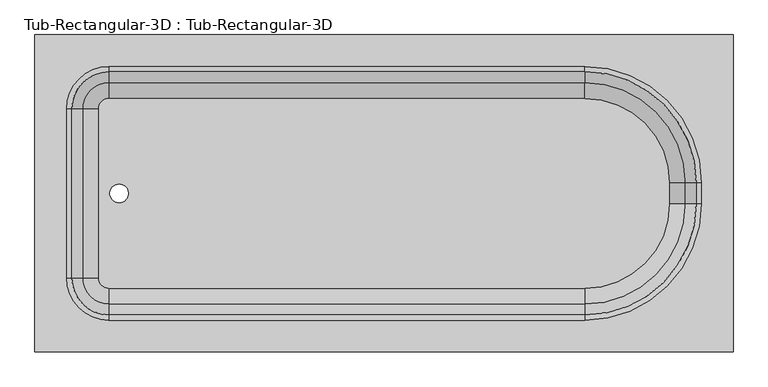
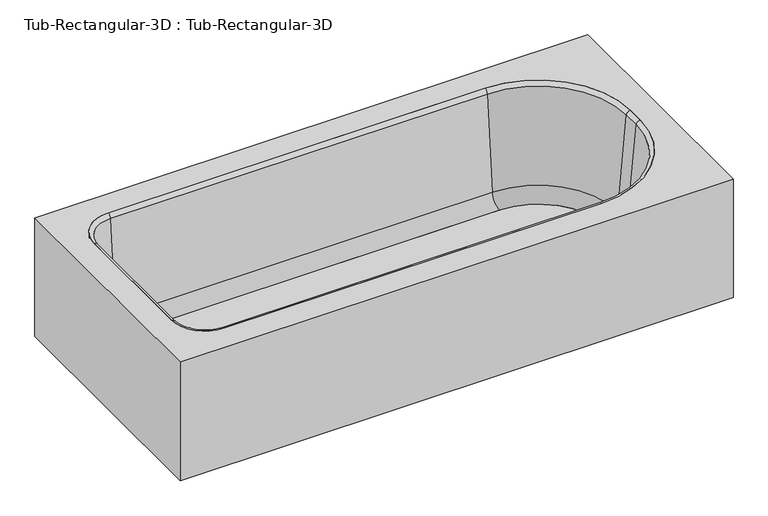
"""IFC4 building model written with IfcOpenShell, lengths in millimetres: flow terminal geometry, Tub-Rectangular-3D : Tub-Rectangular-3D."""

from ifc_helpers import new_model, si_unit, point, frame, frame_2d, origin, place, context, project, spatial, polyline, circle_curve, ellipse_curve, trimmed, segment, composite_curve, outline, extrude, source, transform, mapped, element, save
from ifc_brep_helpers import plane_surface, cylinder_surface, revolved_surface, advanced_brep


def tub_rectangular_3d_tub_rectangular_3d_4e1d8e59(model_context):
    return source(origin(), model_context, "Body", "SolidModel", [
        advanced_brep(
        [(565.7970313, 859.0, 381.0), (-1110.6029687, 859.0, 381.0), (-1110.6029687, 97.0, 381.0), (565.7970313, 97.0, 381.0), (-932.8029687, 782.8, 381.0), (210.1970313, 782.8, 381.0), (489.5970313, 503.4, 381.0), (489.5970313, 452.6, 381.0), (210.1970313, 173.2, 381.0), (-932.8029687, 173.2, 381.0), (-1034.4029687, 274.8, 381.0), (-1034.4029687, 681.2, 381.0), (546.7470313, 839.95, 361.95), (546.7470313, 116.05, 361.95), (-1091.5529687, 116.05, 361.95), (-1091.5529687, 839.95, 361.95), (-932.8029687, 782.8, 361.95), (-1034.4029687, 681.2, 361.95), (-1034.4029687, 274.8, 361.95), (-932.8029687, 173.2, 361.95), (210.1970313, 173.2, 361.95), (489.5970313, 452.6, 361.95), (489.5970313, 503.4, 361.95), (210.1970313, 782.8, 361.95), (565.7970313, 859.0, 0.0), (-1110.6029687, 859.0, 0.0), (-1110.6029687, 97.0, 0.0), (565.7970313, 97.0, 0.0), (546.7470313, 839.95, 0.0), (-1091.5529687, 839.95, 0.0), (-1091.5529687, 116.05, 0.0), (546.7470313, 116.05, 0.0)],
        [
            (0, 1),
            (1, 2),
            (2, 3),
            (3, 0),
            (4, 5),
            (5, 6, circle_curve(frame((210.1970313, 503.4, 381.0), z_axis=(0.0, 0.0, -1.0), x_axis=(0.0, 1.0, 0.0)), 279.4)),
            (6, 7),
            (7, 8, circle_curve(frame((210.1970313, 452.6, 381.0), z_axis=(0.0, 0.0, -1.0), x_axis=(0.0, 1.0, 0.0)), 279.4)),
            (8, 9),
            (9, 10, circle_curve(frame((-932.8029687, 274.8, 381.0), z_axis=(0.0, 0.0, -1.0), x_axis=(0.0, 1.0, 0.0)), 101.6)),
            (10, 11),
            (11, 4, circle_curve(frame((-932.8029687, 681.2, 381.0), z_axis=(0.0, 0.0, -1.0), x_axis=(0.0, 1.0, 0.0)), 101.6)),
            (12, 13),
            (13, 14),
            (14, 15),
            (15, 12),
            (16, 17, circle_curve(frame((-932.8029687, 681.2, 361.95), z_axis=(0.0, 0.0, 1.0), x_axis=(0.0, 1.0, 0.0)), 101.6)),
            (17, 18),
            (18, 19, circle_curve(frame((-932.8029687, 274.8, 361.95), z_axis=(0.0, 0.0, 1.0), x_axis=(0.0, 1.0, 0.0)), 101.6)),
            (19, 20),
            (20, 21, circle_curve(frame((210.1970313, 452.6, 361.95), z_axis=(0.0, 0.0, 1.0), x_axis=(0.0, 1.0, 0.0)), 279.4)),
            (21, 22),
            (22, 23, circle_curve(frame((210.1970313, 503.4, 361.95), z_axis=(0.0, 0.0, 1.0), x_axis=(0.0, 1.0, 0.0)), 279.4)),
            (23, 16),
            (0, 24),
            (24, 25),
            (25, 1),
            (25, 26),
            (26, 2),
            (26, 27),
            (27, 3),
            (27, 24),
            (4, 16),
            (23, 5),
            (22, 6),
            (21, 7),
            (20, 8),
            (19, 9),
            (18, 10),
            (17, 11),
            (28, 29),
            (29, 30),
            (30, 31),
            (31, 28),
            (31, 13),
            (12, 28),
            (30, 14),
            (29, 15),
        ],
        [
            plane_surface(frame((-1110.6029687, 859.0, 381.0), z_axis=(0.0, 0.0, 1.0), x_axis=(-1.0, 0.0, 0.0))),
            plane_surface(frame((-1110.6029687, 859.0, 361.95), z_axis=(0.0, 0.0, -1.0), x_axis=(1.0, 0.0, 0.0))),
            plane_surface(frame((565.7970313, 859.0, 381.0), z_axis=(0.0, 1.0, 0.0), x_axis=(0.0, 0.0, -1.0))),
            plane_surface(frame((-1110.6029687, 859.0, 381.0), z_axis=(-1.0, 0.0, 0.0), x_axis=(0.0, 0.0, -1.0))),
            plane_surface(frame((-1110.6029687, 97.0, 381.0), z_axis=(0.0, -1.0, 0.0), x_axis=(0.0, 0.0, -1.0))),
            plane_surface(frame((565.7970313, 97.0, 381.0), z_axis=(1.0, 0.0, 0.0), x_axis=(0.0, 0.0, -1.0))),
            plane_surface(frame((-932.8029687, 782.8, 381.0), z_axis=(0.0, -1.0, 0.0), x_axis=(0.0, 0.0, -1.0))),
            revolved_surface(polyline([(210.1970313, 782.8, 361.95), (210.1970313, 782.8, 381.0)]), (210.1970313, 503.4, 381.0), (0.0, 0.0, -1.0)),
            plane_surface(frame((489.5970313, 503.4, 381.0), z_axis=(-1.0, 0.0, 0.0), x_axis=(0.0, 0.0, -1.0))),
            revolved_surface(polyline([(210.1970313, 732.0, 361.95), (210.1970313, 732.0, 381.0)]), (210.1970313, 452.6, 381.0), (0.0, 0.0, -1.0)),
            plane_surface(frame((210.1970313, 173.2, 381.0), z_axis=(0.0, 1.0, 0.0), x_axis=(0.0, 0.0, -1.0))),
            revolved_surface(polyline([(-932.8029687, 376.4, 361.95), (-932.8029687, 376.4, 381.0)]), (-932.8029687, 274.8, 381.0), (0.0, 0.0, -1.0)),
            plane_surface(frame((-1034.4029687, 274.8, 381.0), z_axis=(1.0, 0.0, 0.0), x_axis=(0.0, 0.0, -1.0))),
            revolved_surface(polyline([(-932.8029687, 782.8000000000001, 361.95), (-932.8029687, 782.8000000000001, 381.0)]), (-932.8029687, 681.2, 381.0), (0.0, 0.0, -1.0)),
            plane_surface(frame((-1110.6029687, 859.0, 0.0), z_axis=(0.0, 0.0, -1.0), x_axis=(1.0, 0.0, 0.0))),
            plane_surface(frame((546.7470313, 839.95, 361.95), z_axis=(-1.0, 0.0, 0.0), x_axis=(0.0, 0.0, -1.0))),
            plane_surface(frame((546.7470313, 116.05, 361.95), z_axis=(0.0, 1.0, 0.0), x_axis=(0.0, 0.0, -1.0))),
            plane_surface(frame((-1091.5529687, 116.05, 361.95), z_axis=(1.0, 0.0, 0.0), x_axis=(0.0, 0.0, -1.0))),
            plane_surface(frame((-1091.5529687, 839.95, 361.95), z_axis=(0.0, -1.0, 0.0), x_axis=(0.0, 0.0, -1.0))),
        ],
        [
            (0, [[1, 2, 3, 4], [5, 6, 7, 8, 9, 10, 11, 12]]),
            (1, [[13, 14, 15, 16], [17, 18, 19, 20, 21, 22, 23, 24]]),
            (2, [[-1, 25, 26, 27]]),
            (3, [[-2, -27, 28, 29]]),
            (4, [[-3, -29, 30, 31]]),
            (5, [[-25, -4, -31, 32]]),
            (6, [[-5, 33, -24, 34]]),
            (7, [[-6, -34, -23, 35]]),
            (8, [[-7, -35, -22, 36]]),
            (9, [[-8, -36, -21, 37]]),
            (10, [[-9, -37, -20, 38]]),
            (11, [[-10, -38, -19, 39]]),
            (12, [[-11, -39, -18, 40]]),
            (13, [[-12, -40, -17, -33]]),
            (14, [[-32, -30, -28, -26], [41, 42, 43, 44]]),
            (15, [[-44, 45, -13, 46]]),
            (16, [[-43, 47, -14, -45]]),
            (17, [[-42, 48, -15, -47]]),
            (18, [[-41, -46, -16, -48]]),
        ],
    ),
        extrude(outline(composite_curve([segment(trimmed(circle_curve(frame_2d((210.1970313, 503.4)), 202.7964741), [point((210.1970313, 706.1964741))], [point((412.9935054, 503.4))], False, "CARTESIAN"), True, "CONTINUOUS"), segment(polyline([(412.9935054, 503.4), (412.9935054, 452.6)]), True, "CONTINUOUS"), segment(trimmed(circle_curve(frame_2d((210.1970313, 452.6)), 202.7964741), [point((412.9935054, 452.6))], [point((210.1970313, 249.8035259))], False, "CARTESIAN"), True, "CONTINUOUS"), segment(polyline([(210.1970313, 249.8035259), (-932.8029687, 249.8035259)]), True, "CONTINUOUS"), segment(trimmed(circle_curve(frame_2d((-932.8029687, 274.8)), 24.9964741), [point((-932.8029687, 249.8035259))], [point((-957.7994428, 274.8))], False, "CARTESIAN"), True, "CONTINUOUS"), segment(polyline([(-957.7994428, 274.8), (-957.7994428, 681.2)]), True, "CONTINUOUS"), segment(trimmed(circle_curve(frame_2d((-932.8029687, 681.2)), 24.9964741), [point((-957.7994428, 681.2))], [point((-932.8029687, 706.1964741))], False, "CARTESIAN"), True, "CONTINUOUS"), segment(polyline([(-932.8029687, 706.1964741), (210.1970313, 706.1964741)]), True, "CONTINUOUS")], self_intersect=False), holes=[composite_curve([segment(trimmed(circle_curve(frame_2d((-908.510206, 478.0)), 22.225), [point((-908.510206, 500.225))], [point((-908.510206, 455.775))], True, "CARTESIAN"), True, "CONTINUOUS"), segment(trimmed(circle_curve(frame_2d((-908.510206, 478.0)), 22.225), [point((-908.510206, 455.775))], [point((-908.510206, 500.225))], True, "CARTESIAN"), True, "CONTINUOUS")], self_intersect=False)]), frame((0.0, 0.0, 16.863573), z_axis=(0.0, 0.0, 1.0), x_axis=(1.0, 0.0, 0.0)), (0.0, 0.0, 1.0), 19.05),
        advanced_brep(
        [(-995.7544608, 681.2, 70.6929392), (-932.8029687, 744.1514921, 70.6929392), (-932.8029687, 770.3220035, 369.8232535), (-1021.9249722, 681.2, 369.8232535), (-957.7994428, 681.2, 35.913573), (-932.8029687, 706.1964741, 35.913573), (-957.7994428, 681.2, 16.863573), (-932.8029687, 706.1964741, 16.863573), (-1034.4029687, 681.2, 16.863573), (-932.8029687, 782.8, 16.863573), (-1034.4029687, 681.2, 381.0), (-932.8029687, 782.8, 381.0), (-1021.9249722, 274.8, 369.8232535), (-995.7544608, 274.8, 70.6929392), (-957.7994428, 274.8, 35.913573), (-957.7994428, 274.8, 16.863573), (-1034.4029687, 274.8, 16.863573), (-1034.4029687, 274.8, 381.0), (-932.8029687, 211.8485079, 70.6929392), (-932.8029687, 185.6779965, 369.8232535), (-932.8029687, 249.8035259, 35.913573), (-932.8029687, 249.8035259, 16.863573), (-932.8029687, 173.2, 16.863573), (-932.8029687, 173.2, 381.0), (210.1970313, 185.6779965, 369.8232535), (210.1970313, 211.8485079, 70.6929392), (210.1970313, 249.8035259, 35.913573), (210.1970313, 249.8035259, 16.863573), (210.1970313, 173.2, 16.863573), (210.1970313, 173.2, 381.0), (450.9485234, 452.6, 70.6929392), (477.1190348, 452.6, 369.8232535), (412.9935054, 452.6, 35.913573), (412.9935054, 452.6, 16.863573), (489.5970313, 452.6, 16.863573), (489.5970313, 452.6, 381.0), (477.1190348, 503.4, 369.8232535), (450.9485234, 503.4, 70.6929392), (412.9935054, 503.4, 35.913573), (412.9935054, 503.4, 16.863573), (489.5970313, 503.4, 16.863573), (489.5970313, 503.4, 381.0), (210.1970313, 744.1514921, 70.6929392), (210.1970313, 770.3220035, 369.8232535), (210.1970313, 706.1964741, 35.913573), (210.1970313, 706.1964741, 16.863573), (210.1970313, 782.8, 16.863573), (210.1970313, 782.8, 381.0)],
        [
            (0, 1, circle_curve(frame((-932.8029687, 681.2, 70.6929392), z_axis=(0.0, 0.0, -1.0), x_axis=(0.0, 1.0, 0.0)), 62.9514921)),
            (1, 2),
            (2, 3, circle_curve(frame((-932.8029687, 681.2, 369.8232535), z_axis=(0.0, 0.0, 1.0), x_axis=(0.0, 1.0, 0.0)), 89.1220035)),
            (3, 0),
            (4, 5, circle_curve(frame((-932.8029687, 681.2, 35.913573), z_axis=(0.0, 0.0, -1.0), x_axis=(0.0, 1.0, 0.0)), 24.9964741)),
            (5, 1, circle_curve(frame((-932.8029687, 706.1964741, 74.013573), z_axis=(1.0, 0.0, 0.0), x_axis=(0.0, -1.0, 0.0)), 38.1)),
            (0, 4, circle_curve(frame((-957.7994428, 681.2, 74.013573), z_axis=(0.0, -1.0, 0.0), x_axis=(1.0, 0.0, 0.0)), 38.1)),
            (6, 7, circle_curve(frame((-932.8029687, 681.2, 16.863573), z_axis=(0.0, 0.0, -1.0), x_axis=(0.0, 1.0, 0.0)), 24.9964741)),
            (7, 5),
            (4, 6),
            (8, 9, circle_curve(frame((-932.8029687, 681.2, 16.863573), z_axis=(0.0, 0.0, -1.0), x_axis=(0.0, 1.0, 0.0)), 101.6)),
            (9, 7),
            (6, 8),
            (10, 11, circle_curve(frame((-932.8029687, 681.2, 381.0), z_axis=(0.0, 0.0, -1.0), x_axis=(0.0, 1.0, 0.0)), 101.6)),
            (11, 9),
            (8, 10),
            (2, 11, circle_curve(frame((-932.8029687, 782.8, 368.4462547), z_axis=(-1.0, 0.0, 0.0), x_axis=(0.0, -1.0, 0.0)), 12.5537453)),
            (10, 3, circle_curve(frame((-1034.4029687, 681.2, 368.4462547), z_axis=(0.0, 1.0, 0.0), x_axis=(1.0, 0.0, 0.0)), 12.5537453)),
            (3, 12),
            (12, 13),
            (13, 0),
            (13, 14, circle_curve(frame((-957.7994428, 274.8, 74.013573), z_axis=(0.0, -1.0, 0.0), x_axis=(1.0, 0.0, 0.0)), 38.1)),
            (14, 4),
            (14, 15),
            (15, 6),
            (15, 16),
            (16, 8),
            (16, 17),
            (17, 10),
            (17, 12, circle_curve(frame((-1034.4029687, 274.8, 368.4462547), z_axis=(0.0, 1.0, 0.0), x_axis=(1.0, 0.0, 0.0)), 12.5537453)),
            (18, 13, circle_curve(frame((-932.8029687, 274.8, 70.6929392), z_axis=(0.0, 0.0, -1.0), x_axis=(-1.0, 0.0, 0.0)), 62.9514921)),
            (12, 19, circle_curve(frame((-932.8029687, 274.8, 369.8232535), z_axis=(0.0, 0.0, 1.0), x_axis=(-1.0, 0.0, 0.0)), 89.1220035)),
            (19, 18),
            (20, 14, circle_curve(frame((-932.8029687, 274.8, 35.913573), z_axis=(0.0, 0.0, -1.0), x_axis=(-1.0, 0.0, 0.0)), 24.9964741)),
            (18, 20, circle_curve(frame((-932.8029687, 249.8035259, 74.013573), z_axis=(1.0, 0.0, 0.0), x_axis=(0.0, 1.0, 0.0)), 38.1)),
            (21, 15, circle_curve(frame((-932.8029687, 274.8, 16.863573), z_axis=(0.0, 0.0, -1.0), x_axis=(-1.0, 0.0, 0.0)), 24.9964741)),
            (20, 21),
            (22, 16, circle_curve(frame((-932.8029687, 274.8, 16.863573), z_axis=(0.0, 0.0, -1.0), x_axis=(-1.0, 0.0, 0.0)), 101.6)),
            (21, 22),
            (23, 17, circle_curve(frame((-932.8029687, 274.8, 381.0), z_axis=(0.0, 0.0, -1.0), x_axis=(-1.0, 0.0, 0.0)), 101.6)),
            (22, 23),
            (23, 19, circle_curve(frame((-932.8029687, 173.2, 368.4462547), z_axis=(-1.0, 0.0, 0.0), x_axis=(0.0, 1.0, 0.0)), 12.5537453)),
            (19, 24),
            (24, 25),
            (25, 18),
            (25, 26, circle_curve(frame((210.1970313, 249.8035259, 74.013573), z_axis=(1.0, 0.0, 0.0), x_axis=(0.0, 1.0, 0.0)), 38.1)),
            (26, 20),
            (26, 27),
            (27, 21),
            (27, 28),
            (28, 22),
            (28, 29),
            (29, 23),
            (29, 24, circle_curve(frame((210.1970313, 173.2, 368.4462547), z_axis=(-1.0, 0.0, 0.0), x_axis=(0.0, 1.0, 0.0)), 12.5537453)),
            (30, 25, circle_curve(frame((210.1970313, 452.6, 70.6929392), z_axis=(0.0, 0.0, -1.0), x_axis=(0.0, -1.0, 0.0)), 240.7514921)),
            (24, 31, circle_curve(frame((210.1970313, 452.6, 369.8232535), z_axis=(0.0, 0.0, 1.0), x_axis=(0.0, -1.0, 0.0)), 266.9220035)),
            (31, 30),
            (32, 26, circle_curve(frame((210.1970313, 452.6, 35.913573), z_axis=(0.0, 0.0, -1.0), x_axis=(0.0, -1.0, 0.0)), 202.7964741)),
            (30, 32, circle_curve(frame((412.9935054, 452.6, 74.013573), z_axis=(0.0, 1.0, 0.0), x_axis=(-1.0, 0.0, 0.0)), 38.1)),
            (33, 27, circle_curve(frame((210.1970313, 452.6, 16.863573), z_axis=(0.0, 0.0, -1.0), x_axis=(0.0, -1.0, 0.0)), 202.7964741)),
            (32, 33),
            (34, 28, circle_curve(frame((210.1970313, 452.6, 16.863573), z_axis=(0.0, 0.0, -1.0), x_axis=(0.0, -1.0, 0.0)), 279.4)),
            (33, 34),
            (35, 29, circle_curve(frame((210.1970313, 452.6, 381.0), z_axis=(0.0, 0.0, -1.0), x_axis=(0.0, -1.0, 0.0)), 279.4)),
            (34, 35),
            (35, 31, circle_curve(frame((489.5970313, 452.6, 368.4462547), z_axis=(0.0, -1.0, 0.0), x_axis=(-1.0, 0.0, 0.0)), 12.5537453)),
            (31, 36),
            (36, 37),
            (37, 30),
            (37, 38, circle_curve(frame((412.9935054, 503.4, 74.013573), z_axis=(0.0, 1.0, 0.0), x_axis=(-1.0, 0.0, 0.0)), 38.1)),
            (38, 32),
            (38, 39),
            (39, 33),
            (39, 40),
            (40, 34),
            (40, 41),
            (41, 35),
            (41, 36, circle_curve(frame((489.5970313, 503.4, 368.4462547), z_axis=(0.0, -1.0, 0.0), x_axis=(-1.0, 0.0, 0.0)), 12.5537453)),
            (42, 37, circle_curve(frame((210.1970313, 503.4, 70.6929392), z_axis=(0.0, 0.0, -1.0), x_axis=(1.0, 0.0, 0.0)), 240.7514921)),
            (36, 43, circle_curve(frame((210.1970313, 503.4, 369.8232535), z_axis=(0.0, 0.0, 1.0), x_axis=(1.0, 0.0, 0.0)), 266.9220035)),
            (43, 42),
            (44, 38, circle_curve(frame((210.1970313, 503.4, 35.913573), z_axis=(0.0, 0.0, -1.0), x_axis=(1.0, 0.0, 0.0)), 202.7964741)),
            (42, 44, circle_curve(frame((210.1970313, 706.1964741, 74.013573), z_axis=(-1.0, 0.0, 0.0), x_axis=(0.0, -1.0, 0.0)), 38.1)),
            (45, 39, circle_curve(frame((210.1970313, 503.4, 16.863573), z_axis=(0.0, 0.0, -1.0), x_axis=(1.0, 0.0, 0.0)), 202.7964741)),
            (44, 45),
            (46, 40, circle_curve(frame((210.1970313, 503.4, 16.863573), z_axis=(0.0, 0.0, -1.0), x_axis=(1.0, 0.0, 0.0)), 279.4)),
            (45, 46),
            (47, 41, circle_curve(frame((210.1970313, 503.4, 381.0), z_axis=(0.0, 0.0, -1.0), x_axis=(1.0, 0.0, 0.0)), 279.4)),
            (46, 47),
            (47, 43, circle_curve(frame((210.1970313, 782.8, 368.4462547), z_axis=(1.0, 0.0, 0.0), x_axis=(0.0, -1.0, 0.0)), 12.5537453)),
            (43, 2),
            (1, 42),
            (5, 44),
            (7, 45),
            (9, 46),
            (11, 47),
        ],
        [
            revolved_surface(polyline([(-932.8029687, 770.3220035, 369.8232535), (-932.8029687, 744.1514921, 70.6929392)]), (-932.8029687, 681.2, 381.0), (0.0, 0.0, 1.0)),
            revolved_surface(trimmed(ellipse_curve(frame((-932.8029687, 706.1964741, 74.013573), z_axis=(-1.0, 0.0, 0.0), x_axis=(0.0, -1.0, 0.0)), 38.1, 38.1), [point((-932.8029687, 744.1514921, 70.6929392))], [point((-932.8029687, 706.1964741, 35.913573))], True, "CARTESIAN"), (-932.8029687, 681.2, 381.0), (0.0, 0.0, 1.0)),
            revolved_surface(polyline([(-932.8029687, 706.1964741, 35.913572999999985), (-932.8029687, 706.1964741, 16.863572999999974)]), (-932.8029687, 681.2, 381.0), (0.0, 0.0, 1.0)),
            plane_surface(frame((-932.8029687, 681.2, 16.863573), z_axis=(0.0, 0.0, -1.0), x_axis=(0.0, 1.0, 0.0))),
            cylinder_surface(frame((-932.8029687, 681.2, 381.0), z_axis=(0.0, 0.0, 1.0), x_axis=(0.0, 1.0, 0.0)), 101.6),
            revolved_surface(trimmed(ellipse_curve(frame((-932.8029687, 782.8, 368.4462547), z_axis=(1.0, 0.0, 0.0), x_axis=(0.0, -1.0, 0.0)), 12.5537453, 12.5537453), [point((-932.8029687, 782.8, 381.0))], [point((-932.8029687, 770.3220035, 369.8232535))], True, "CARTESIAN"), (-932.8029687, 681.2, 381.0), (0.0, 0.0, 1.0)),
            plane_surface(frame((-1021.9249722, 681.2, 369.8232535), z_axis=(0.9961946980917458, 0.0, 0.08715574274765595), x_axis=(0.0, -1.0, 0.0))),
            revolved_surface(polyline([(-919.6994427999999, 274.8, 74.013573), (-919.6994427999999, 681.2, 74.013573)]), (-957.7994428, 681.2, 74.013573), (0.0, -1.0, 0.0)),
            plane_surface(frame((-957.7994428, 681.2, 35.913573), z_axis=(1.0, 0.0, 0.0), x_axis=(0.0, -1.0, 0.0))),
            plane_surface(frame((-957.7994428, 681.2, 16.863573), z_axis=(0.0, 0.0, -1.0), x_axis=(0.0, -1.0, 0.0))),
            plane_surface(frame((-1034.4029687, 681.2, 16.863573), z_axis=(-1.0, 0.0, 0.0), x_axis=(0.0, -1.0, 0.0))),
            cylinder_surface(frame((-1034.4029687, 681.2, 368.4462547), z_axis=(0.0, 1.0, 0.0), x_axis=(1.0, 0.0, 0.0)), 12.5537453),
            revolved_surface(polyline([(-1021.9249722, 274.8, 369.8232535), (-995.7544608, 274.8, 70.6929392)]), (-932.8029687, 274.8, 381.0), (0.0, 0.0, 1.0)),
            revolved_surface(trimmed(ellipse_curve(frame((-957.7994428, 274.8, 74.013573), z_axis=(0.0, -1.0, 0.0), x_axis=(1.0, 0.0, 0.0)), 38.1, 38.1), [point((-995.7544608, 274.8, 70.6929392))], [point((-957.7994428, 274.8, 35.913573))], True, "CARTESIAN"), (-932.8029687, 274.8, 381.0), (0.0, 0.0, 1.0)),
            revolved_surface(polyline([(-957.7994428, 274.8, 35.913572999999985), (-957.7994428, 274.8, 16.863572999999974)]), (-932.8029687, 274.8, 381.0), (0.0, 0.0, 1.0)),
            plane_surface(frame((-932.8029687, 274.8, 16.863573), z_axis=(0.0, 0.0, -1.0), x_axis=(-1.0, 0.0, 0.0))),
            cylinder_surface(frame((-932.8029687, 274.8, 381.0), z_axis=(0.0, 0.0, 1.0), x_axis=(-1.0, 0.0, 0.0)), 101.6),
            revolved_surface(trimmed(ellipse_curve(frame((-1034.4029687, 274.8, 368.4462547), z_axis=(0.0, 1.0, 0.0), x_axis=(1.0, 0.0, 0.0)), 12.5537453, 12.5537453), [point((-1034.4029687, 274.8, 381.0))], [point((-1021.9249722, 274.8, 369.8232535))], True, "CARTESIAN"), (-932.8029687, 274.8, 381.0), (0.0, 0.0, 1.0)),
            plane_surface(frame((-932.8029687, 185.6779965, 369.8232535), z_axis=(0.0, 0.9961946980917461, 0.08715574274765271), x_axis=(1.0, 0.0, 0.0))),
            revolved_surface(polyline([(210.19703130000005, 287.90352590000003, 74.013573), (-932.8029687, 287.90352590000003, 74.013573)]), (-932.8029687, 249.8035259, 74.013573), (1.0, 0.0, 0.0)),
            plane_surface(frame((-932.8029687, 249.8035259, 35.913573), z_axis=(0.0, 1.0, 0.0), x_axis=(1.0, 0.0, 0.0))),
            plane_surface(frame((-932.8029687, 249.8035259, 16.863573), z_axis=(0.0, 0.0, -1.0), x_axis=(1.0, 0.0, 0.0))),
            plane_surface(frame((-932.8029687, 173.2, 16.863573), z_axis=(0.0, -1.0, 0.0), x_axis=(1.0, 0.0, 0.0))),
            cylinder_surface(frame((-932.8029687, 173.2, 368.4462547), z_axis=(-1.0, 0.0, 0.0), x_axis=(0.0, 1.0, 0.0)), 12.5537453),
            revolved_surface(polyline([(210.1970313, 185.6779965, 369.8232535), (210.1970313, 211.8485079, 70.6929392)]), (210.1970313, 452.6, 381.0), (0.0, 0.0, 1.0)),
            revolved_surface(trimmed(ellipse_curve(frame((210.1970313, 249.8035259, 74.013573), z_axis=(1.0, 0.0, 0.0), x_axis=(0.0, 1.0, 0.0)), 38.1, 38.1), [point((210.1970313, 211.8485079, 70.6929392))], [point((210.1970313, 249.8035259, 35.913573))], True, "CARTESIAN"), (210.1970313, 452.6, 381.0), (0.0, 0.0, 1.0)),
            revolved_surface(polyline([(210.1970313, 249.8035259, 35.913572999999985), (210.1970313, 249.8035259, 16.863572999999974)]), (210.1970313, 452.6, 381.0), (0.0, 0.0, 1.0)),
            plane_surface(frame((210.1970313, 452.6, 16.863573), z_axis=(0.0, 0.0, -1.0), x_axis=(0.0, -1.0, 0.0))),
            cylinder_surface(frame((210.1970313, 452.6, 381.0), z_axis=(0.0, 0.0, 1.0), x_axis=(0.0, -1.0, 0.0)), 279.4),
            revolved_surface(trimmed(ellipse_curve(frame((210.1970313, 173.2, 368.4462547), z_axis=(-1.0, 0.0, 0.0), x_axis=(0.0, 1.0, 0.0)), 12.5537453, 12.5537453), [point((210.1970313, 173.2, 381.0))], [point((210.1970313, 185.6779965, 369.8232535))], True, "CARTESIAN"), (210.1970313, 452.6, 381.0), (0.0, 0.0, 1.0)),
            plane_surface(frame((477.1190348, 452.6, 369.8232535), z_axis=(-0.9961946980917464, 0.0, 0.08715574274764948), x_axis=(0.0, 1.0, 0.0))),
            revolved_surface(polyline([(374.8935054, 503.4, 74.013573), (374.8935054, 452.6, 74.013573)]), (412.9935054, 452.6, 74.013573), (0.0, 1.0, 0.0)),
            plane_surface(frame((412.9935054, 452.6, 35.913573), z_axis=(-1.0, 0.0, 0.0), x_axis=(0.0, 1.0, 0.0))),
            plane_surface(frame((412.9935054, 452.6, 16.863573), z_axis=(0.0, 0.0, -1.0), x_axis=(0.0, 1.0, 0.0))),
            plane_surface(frame((489.5970313, 452.6, 16.863573), z_axis=(1.0, 0.0, 0.0), x_axis=(0.0, 1.0, 0.0))),
            cylinder_surface(frame((489.5970313, 452.6, 368.4462547), z_axis=(0.0, -1.0, 0.0), x_axis=(-1.0, 0.0, 0.0)), 12.5537453),
            revolved_surface(polyline([(477.1190348, 503.4, 369.8232535), (450.9485234, 503.4, 70.6929392)]), (210.1970313, 503.4, 381.0), (0.0, 0.0, 1.0)),
            revolved_surface(trimmed(ellipse_curve(frame((412.9935054, 503.4, 74.013573), z_axis=(0.0, 1.0, 0.0), x_axis=(-1.0, 0.0, 0.0)), 38.1, 38.1), [point((450.9485234, 503.4, 70.6929392))], [point((412.9935054, 503.4, 35.913573))], True, "CARTESIAN"), (210.1970313, 503.4, 381.0), (0.0, 0.0, 1.0)),
            revolved_surface(polyline([(412.9935054, 503.4, 35.913572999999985), (412.9935054, 503.4, 16.863572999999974)]), (210.1970313, 503.4, 381.0), (0.0, 0.0, 1.0)),
            plane_surface(frame((210.1970313, 503.4, 16.863573), z_axis=(0.0, 0.0, -1.0), x_axis=(1.0, 0.0, 0.0))),
            cylinder_surface(frame((210.1970313, 503.4, 381.0), z_axis=(0.0, 0.0, 1.0), x_axis=(1.0, 0.0, 0.0)), 279.4),
            revolved_surface(trimmed(ellipse_curve(frame((489.5970313, 503.4, 368.4462547), z_axis=(0.0, -1.0, 0.0), x_axis=(-1.0, 0.0, 0.0)), 12.5537453, 12.5537453), [point((489.5970313, 503.4, 381.0))], [point((477.1190348, 503.4, 369.8232535))], True, "CARTESIAN"), (210.1970313, 503.4, 381.0), (0.0, 0.0, 1.0)),
            plane_surface(frame((210.1970313, 770.3220035, 369.8232535), z_axis=(0.0, -0.9961946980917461, 0.08715574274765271), x_axis=(-1.0, 0.0, 0.0))),
            revolved_surface(polyline([(-932.8029687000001, 668.0964741, 74.013573), (210.1970313, 668.0964741, 74.013573)]), (210.1970313, 706.1964741, 74.013573), (-1.0, 0.0, 0.0)),
            plane_surface(frame((210.1970313, 706.1964741, 35.913573), z_axis=(0.0, -1.0, 0.0), x_axis=(-1.0, 0.0, 0.0))),
            plane_surface(frame((210.1970313, 706.1964741, 16.863573), z_axis=(0.0, 0.0, -1.0), x_axis=(-1.0, 0.0, 0.0))),
            plane_surface(frame((210.1970313, 782.8, 16.863573), z_axis=(0.0, 1.0, 0.0), x_axis=(-1.0, 0.0, 0.0))),
            cylinder_surface(frame((210.1970313, 782.8, 368.4462547), z_axis=(1.0, 0.0, 0.0), x_axis=(0.0, -1.0, 0.0)), 12.5537453),
        ],
        [
            (0, [[1, 2, 3, 4]]),
            (1, [[5, 6, -1, 7]]),
            (2, [[8, 9, -5, 10]]),
            (3, [[11, 12, -8, 13]]),
            (4, [[14, 15, -11, 16]]),
            (5, [[-3, 17, -14, 18]]),
            (6, [[-4, 19, 20, 21]]),
            (7, [[-7, -21, 22, 23]]),
            (8, [[-10, -23, 24, 25]]),
            (9, [[-13, -25, 26, 27]]),
            (10, [[-16, -27, 28, 29]]),
            (11, [[-18, -29, 30, -19]]),
            (12, [[31, -20, 32, 33]]),
            (13, [[34, -22, -31, 35]]),
            (14, [[36, -24, -34, 37]]),
            (15, [[38, -26, -36, 39]]),
            (16, [[40, -28, -38, 41]]),
            (17, [[-32, -30, -40, 42]]),
            (18, [[-33, 43, 44, 45]]),
            (19, [[-35, -45, 46, 47]]),
            (20, [[-37, -47, 48, 49]]),
            (21, [[-39, -49, 50, 51]]),
            (22, [[-41, -51, 52, 53]]),
            (23, [[-42, -53, 54, -43]]),
            (24, [[55, -44, 56, 57]]),
            (25, [[58, -46, -55, 59]]),
            (26, [[60, -48, -58, 61]]),
            (27, [[62, -50, -60, 63]]),
            (28, [[64, -52, -62, 65]]),
            (29, [[-56, -54, -64, 66]]),
            (30, [[-57, 67, 68, 69]]),
            (31, [[-59, -69, 70, 71]]),
            (32, [[-61, -71, 72, 73]]),
            (33, [[-63, -73, 74, 75]]),
            (34, [[-65, -75, 76, 77]]),
            (35, [[-66, -77, 78, -67]]),
            (36, [[79, -68, 80, 81]]),
            (37, [[82, -70, -79, 83]]),
            (38, [[84, -72, -82, 85]]),
            (39, [[86, -74, -84, 87]]),
            (40, [[88, -76, -86, 89]]),
            (41, [[-80, -78, -88, 90]]),
            (42, [[-81, 91, -2, 92]]),
            (43, [[-83, -92, -6, 93]]),
            (44, [[-85, -93, -9, 94]]),
            (45, [[-87, -94, -12, 95]]),
            (46, [[-89, -95, -15, 96]]),
            (47, [[-90, -96, -17, -91]]),
        ],
    ),
    ])


if __name__ == "__main__":
    model = new_model("IFC4")
    model_context = context("Model", 3, world=origin())
    ifc_project = project(units=[si_unit("LENGTHUNIT", "METRE", prefix="MILLI")], contexts=[model_context])
    site = spatial("IfcSite", under=ifc_project)
    building = spatial("IfcBuilding", under=site)
    placement = place(None, origin())
    tub_rectangular_3d_tub_rectangular_3d_shape = tub_rectangular_3d_tub_rectangular_3d_4e1d8e59(model_context)
    element("IfcFlowTerminal", 1, ObjectType="Tub-Rectangular-3D : Tub-Rectangular-3D", at=placement, inside=building, context=model_context, shape_type="MappedRepresentation", body=[
        mapped(tub_rectangular_3d_tub_rectangular_3d_shape, transform((0.0, 0.0, 0.0), x_axis=(1.0, 0.0, 0.0), y_axis=(0.0, 1.0, 0.0), z_axis=(0.0, 0.0, 1.0))),
    ])
    save(model, "model.ifc")
